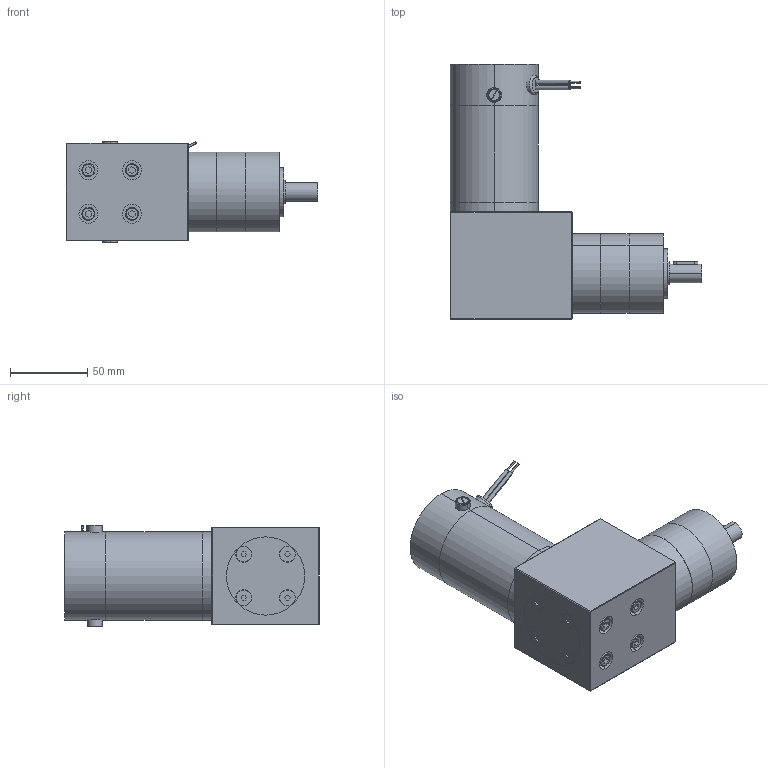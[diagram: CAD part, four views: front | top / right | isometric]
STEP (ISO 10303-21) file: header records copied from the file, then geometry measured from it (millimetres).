
FILE_DESCRIPTION (( 'STEP AP203' ), '1' );
FILE_NAME ('d22376gra2.step', '2018-12-07T19:23:27', ( '' ), ( '' ), 'SwSTEP 2.0', 'SolidWorks 2017', '' );
FILE_SCHEMA (( 'CONFIG_CONTROL_DESIGN' ));
Length unit declared in the file: inch
Products named in the file (1): d22376gra2
Bounding box: 163.27 x 165.4 x 66.04 mm (x, y, z)
Volume: 713364.8 mm3; surface area: 115463.7 mm2
Topology: 24 solids, 24 shells, 925 faces, 2063 edges, 1234 vertices
Faces by surface type: cylinder 340, cone 329, plane 245, torus 7, sphere 4
Entity records: 25822 total; most frequent: DIRECTION 4893, CARTESIAN_POINT 4533, ORIENTED_EDGE 4078, EDGE_CURVE 2039, AXIS2_PLACEMENT_3D 1944, VERTEX_POINT 1234, EDGE_LOOP 1039, CIRCLE 1018
